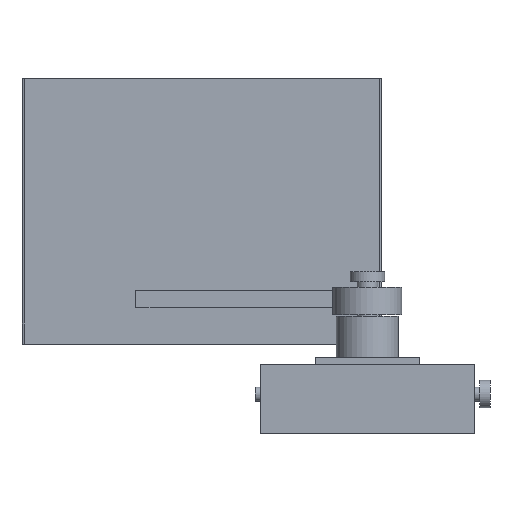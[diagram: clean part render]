
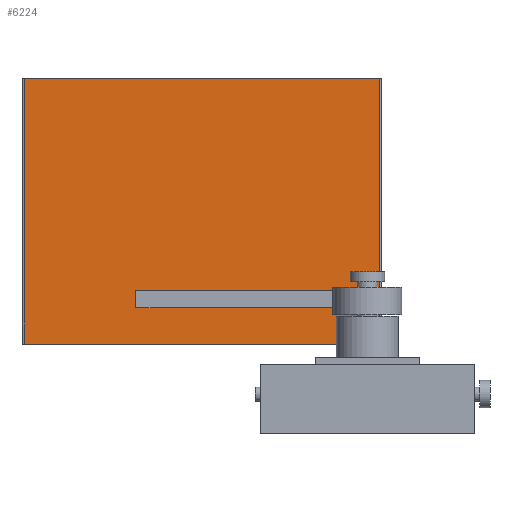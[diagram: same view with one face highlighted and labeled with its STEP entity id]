
A CAD part, left-side view. The second image highlights one B-rep face of the part: STEP entity #6224.
In plain terms, the highlighted planar face has unit normal (-1, 0, 0).
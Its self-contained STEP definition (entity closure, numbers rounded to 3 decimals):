
#6224 = ADVANCED_FACE('',(#6225),#6239,.F.);
#6225 = FACE_BOUND('',#6226,.F.);
#6226 = EDGE_LOOP('',(#6227,#6262,#6290,#6318));
#6227 = ORIENTED_EDGE('',*,*,#6228,.F.);
#6228 = EDGE_CURVE('',#6229,#6231,#6233,.T.);
#6229 = VERTEX_POINT('',#6230);
#6230 = CARTESIAN_POINT('',(51.,-3.4,103.));
#6231 = VERTEX_POINT('',#6232);
#6232 = CARTESIAN_POINT('',(51.,99.4,103.));
#6233 = SURFACE_CURVE('',#6234,(#6238,#6250),.PCURVE_S1.);
#6234 = LINE('',#6235,#6236);
#6235 = CARTESIAN_POINT('',(51.,-4.,103.));
#6236 = VECTOR('',#6237,1.);
#6237 = DIRECTION('',(0.,1.,0.));
#6238 = PCURVE('',#6239,#6244);
#6239 = PLANE('',#6240);
#6240 = AXIS2_PLACEMENT_3D('',#6241,#6242,#6243);
#6241 = CARTESIAN_POINT('',(51.,-4.,26.));
#6242 = DIRECTION('',(1.,0.,0.));
#6243 = DIRECTION('',(0.,0.,1.));
#6244 = DEFINITIONAL_REPRESENTATION('',(#6245),#6249);
#6245 = LINE('',#6246,#6247);
#6246 = CARTESIAN_POINT('',(77.,0.));
#6247 = VECTOR('',#6248,1.);
#6248 = DIRECTION('',(0.,-1.));
#6249 = ( GEOMETRIC_REPRESENTATION_CONTEXT(2) 
PARAMETRIC_REPRESENTATION_CONTEXT() REPRESENTATION_CONTEXT('2D SPACE',''
  ) );
#6250 = PCURVE('',#6251,#6256);
#6251 = PLANE('',#6252);
#6252 = AXIS2_PLACEMENT_3D('',#6253,#6254,#6255);
#6253 = CARTESIAN_POINT('',(51.,-4.,103.));
#6254 = DIRECTION('',(0.,0.,1.));
#6255 = DIRECTION('',(1.,0.,0.));
#6256 = DEFINITIONAL_REPRESENTATION('',(#6257),#6261);
#6257 = LINE('',#6258,#6259);
#6258 = CARTESIAN_POINT('',(0.,0.));
#6259 = VECTOR('',#6260,1.);
#6260 = DIRECTION('',(0.,1.));
#6261 = ( GEOMETRIC_REPRESENTATION_CONTEXT(2) 
PARAMETRIC_REPRESENTATION_CONTEXT() REPRESENTATION_CONTEXT('2D SPACE',''
  ) );
#6262 = ORIENTED_EDGE('',*,*,#6263,.F.);
#6263 = EDGE_CURVE('',#6264,#6229,#6266,.T.);
#6264 = VERTEX_POINT('',#6265);
#6265 = CARTESIAN_POINT('',(51.,-3.4,26.));
#6266 = SURFACE_CURVE('',#6267,(#6271,#6278),.PCURVE_S1.);
#6267 = LINE('',#6268,#6269);
#6268 = CARTESIAN_POINT('',(51.,-3.4,26.));
#6269 = VECTOR('',#6270,1.);
#6270 = DIRECTION('',(0.,0.,1.));
#6271 = PCURVE('',#6239,#6272);
#6272 = DEFINITIONAL_REPRESENTATION('',(#6273),#6277);
#6273 = LINE('',#6274,#6275);
#6274 = CARTESIAN_POINT('',(0.,-0.6));
#6275 = VECTOR('',#6276,1.);
#6276 = DIRECTION('',(1.,0.));
#6277 = ( GEOMETRIC_REPRESENTATION_CONTEXT(2) 
PARAMETRIC_REPRESENTATION_CONTEXT() REPRESENTATION_CONTEXT('2D SPACE',''
  ) );
#6278 = PCURVE('',#6279,#6284);
#6279 = CYLINDRICAL_SURFACE('',#6280,0.6);
#6280 = AXIS2_PLACEMENT_3D('',#6281,#6282,#6283);
#6281 = CARTESIAN_POINT('',(51.6,-3.4,26.));
#6282 = DIRECTION('',(0.,0.,1.));
#6283 = DIRECTION('',(-1.,0.,0.));
#6284 = DEFINITIONAL_REPRESENTATION('',(#6285),#6289);
#6285 = LINE('',#6286,#6287);
#6286 = CARTESIAN_POINT('',(0.,0.));
#6287 = VECTOR('',#6288,1.);
#6288 = DIRECTION('',(0.,1.));
#6289 = ( GEOMETRIC_REPRESENTATION_CONTEXT(2) 
PARAMETRIC_REPRESENTATION_CONTEXT() REPRESENTATION_CONTEXT('2D SPACE',''
  ) );
#6290 = ORIENTED_EDGE('',*,*,#6291,.T.);
#6291 = EDGE_CURVE('',#6264,#6292,#6294,.T.);
#6292 = VERTEX_POINT('',#6293);
#6293 = CARTESIAN_POINT('',(51.,99.4,26.));
#6294 = SURFACE_CURVE('',#6295,(#6299,#6306),.PCURVE_S1.);
#6295 = LINE('',#6296,#6297);
#6296 = CARTESIAN_POINT('',(51.,-4.,26.));
#6297 = VECTOR('',#6298,1.);
#6298 = DIRECTION('',(0.,1.,0.));
#6299 = PCURVE('',#6239,#6300);
#6300 = DEFINITIONAL_REPRESENTATION('',(#6301),#6305);
#6301 = LINE('',#6302,#6303);
#6302 = CARTESIAN_POINT('',(0.,0.));
#6303 = VECTOR('',#6304,1.);
#6304 = DIRECTION('',(0.,-1.));
#6305 = ( GEOMETRIC_REPRESENTATION_CONTEXT(2) 
PARAMETRIC_REPRESENTATION_CONTEXT() REPRESENTATION_CONTEXT('2D SPACE',''
  ) );
#6306 = PCURVE('',#6307,#6312);
#6307 = PLANE('',#6308);
#6308 = AXIS2_PLACEMENT_3D('',#6309,#6310,#6311);
#6309 = CARTESIAN_POINT('',(51.,-4.,26.));
#6310 = DIRECTION('',(0.,0.,1.));
#6311 = DIRECTION('',(1.,0.,0.));
#6312 = DEFINITIONAL_REPRESENTATION('',(#6313),#6317);
#6313 = LINE('',#6314,#6315);
#6314 = CARTESIAN_POINT('',(0.,0.));
#6315 = VECTOR('',#6316,1.);
#6316 = DIRECTION('',(0.,1.));
#6317 = ( GEOMETRIC_REPRESENTATION_CONTEXT(2) 
PARAMETRIC_REPRESENTATION_CONTEXT() REPRESENTATION_CONTEXT('2D SPACE',''
  ) );
#6318 = ORIENTED_EDGE('',*,*,#6319,.T.);
#6319 = EDGE_CURVE('',#6292,#6231,#6320,.T.);
#6320 = SURFACE_CURVE('',#6321,(#6325,#6332),.PCURVE_S1.);
#6321 = LINE('',#6322,#6323);
#6322 = CARTESIAN_POINT('',(51.,99.4,26.));
#6323 = VECTOR('',#6324,1.);
#6324 = DIRECTION('',(0.,0.,1.));
#6325 = PCURVE('',#6239,#6326);
#6326 = DEFINITIONAL_REPRESENTATION('',(#6327),#6331);
#6327 = LINE('',#6328,#6329);
#6328 = CARTESIAN_POINT('',(0.,-103.4));
#6329 = VECTOR('',#6330,1.);
#6330 = DIRECTION('',(1.,0.));
#6331 = ( GEOMETRIC_REPRESENTATION_CONTEXT(2) 
PARAMETRIC_REPRESENTATION_CONTEXT() REPRESENTATION_CONTEXT('2D SPACE',''
  ) );
#6332 = PCURVE('',#6333,#6338);
#6333 = CYLINDRICAL_SURFACE('',#6334,0.6);
#6334 = AXIS2_PLACEMENT_3D('',#6335,#6336,#6337);
#6335 = CARTESIAN_POINT('',(51.6,99.4,26.));
#6336 = DIRECTION('',(0.,0.,1.));
#6337 = DIRECTION('',(-1.,0.,0.));
#6338 = DEFINITIONAL_REPRESENTATION('',(#6339),#6343);
#6339 = LINE('',#6340,#6341);
#6340 = CARTESIAN_POINT('',(-0.,0.));
#6341 = VECTOR('',#6342,1.);
#6342 = DIRECTION('',(-0.,1.));
#6343 = ( GEOMETRIC_REPRESENTATION_CONTEXT(2) 
PARAMETRIC_REPRESENTATION_CONTEXT() REPRESENTATION_CONTEXT('2D SPACE',''
  ) );
